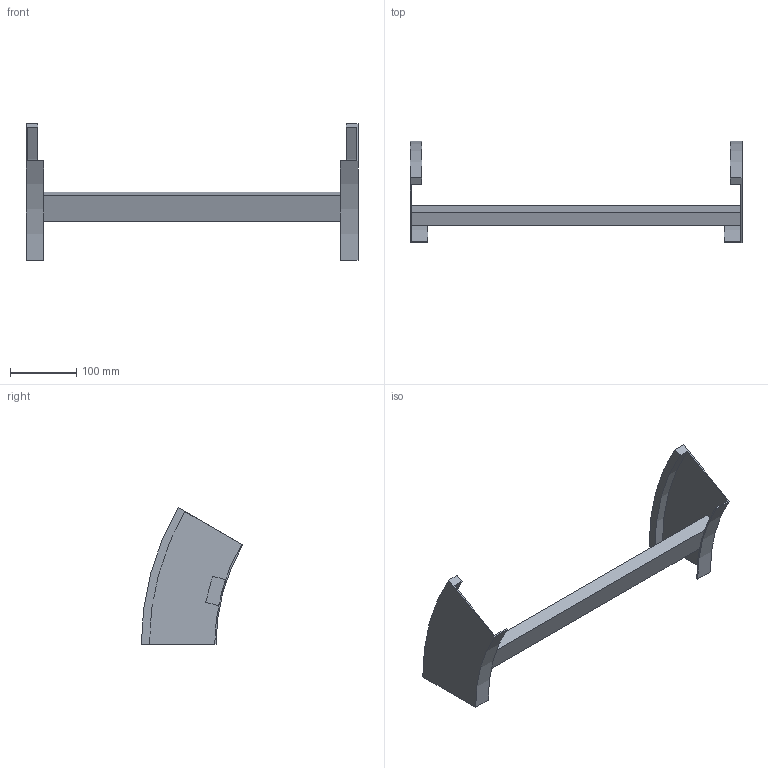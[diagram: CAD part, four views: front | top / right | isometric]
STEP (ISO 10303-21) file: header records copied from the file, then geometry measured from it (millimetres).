
FILE_DESCRIPTION (( 'STEP AP214' ), '1' );
FILE_NAME ('B2_35B3J500.step', '2025-02-21T14:48:43', ( '' ), ( '' ), 'SwSTEP 2.0', 'SolidWorks 2023', '' );
FILE_SCHEMA (( 'AUTOMOTIVE_DESIGN' ));
Length unit declared in the file: millimetre
Products named in the file (3): TRAVERSINO_500; B2_35B3J500; B2_LONGH.DISCESA_30°_H112.5_R300
Assembly tree (3 placements, depth 2):
  B2_35B3J500
    B2_LONGH.DISCESA_30°_H112.5_R300  x2
    TRAVERSINO_500
Bounding box: 500 x 152.69 x 206.25 mm (x, y, z)
Volume: 583191.4 mm3; surface area: 178318 mm2
Topology: 3 solids, 3 shells, 26 faces, 60 edges, 40 vertices
Faces by surface type: plane 18, cylinder 8
Entity records: 544 total; most frequent: DIRECTION 88, CARTESIAN_POINT 82, ORIENTED_EDGE 72, EDGE_CURVE 36, AXIS2_PLACEMENT_3D 30, LINE 28, VECTOR 28, VERTEX_POINT 24
